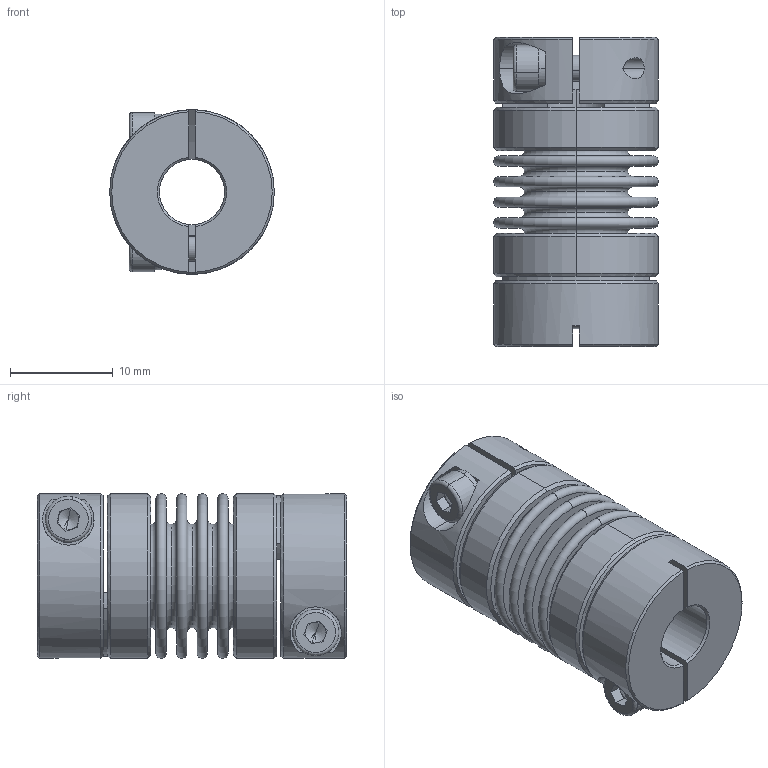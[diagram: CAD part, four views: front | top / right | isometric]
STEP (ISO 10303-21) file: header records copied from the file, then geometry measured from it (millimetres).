
FILE_DESCRIPTION (( 'STEP AP203' ), '1' );
FILE_NAME ('LB-B-D16L30-6.35-6.35.STEP', '2021-11-04T01:15:11', ( '' ), ( '' ), 'SwSTEP 2.0', 'SolidWorks 2018', '' );
FILE_SCHEMA (( 'CONFIG_CONTROL_DESIGN' ));
Length unit declared in the file: millimetre
Products named in the file (2): LB-B-D16L30-6.35-6.35; 零件1^LB-B-D16L30 波纹管联轴器-组装体
Assembly tree (1 placements, depth 2):
  LB-B-D16L30-6.35-6.35
    零件1^LB-B-D16L30 波纹管联轴器-组装体
Bounding box: 16 x 30.04 x 16 mm (x, y, z)
Volume: 3067.6 mm3; surface area: 6432.8 mm2
Topology: 1 solids, 1 shells, 254 faces, 586 edges, 362 vertices
Faces by surface type: plane 86, torus 68, cylinder 66, cone 34
Entity records: 7660 total; most frequent: CARTESIAN_POINT 1472, DIRECTION 1420, ORIENTED_EDGE 1164, AXIS2_PLACEMENT_3D 622, EDGE_CURVE 582, CIRCLE 364, VERTEX_POINT 362, EDGE_LOOP 296
